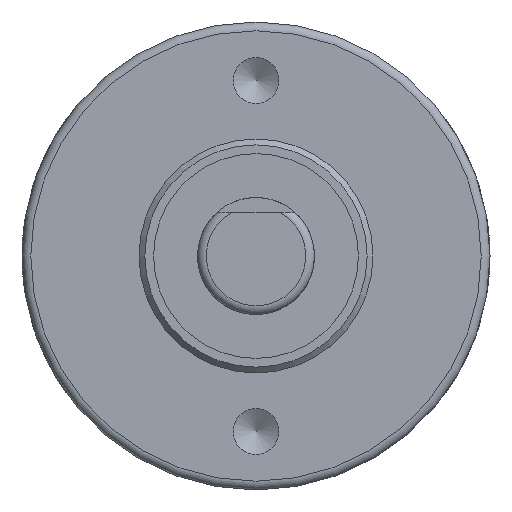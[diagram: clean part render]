
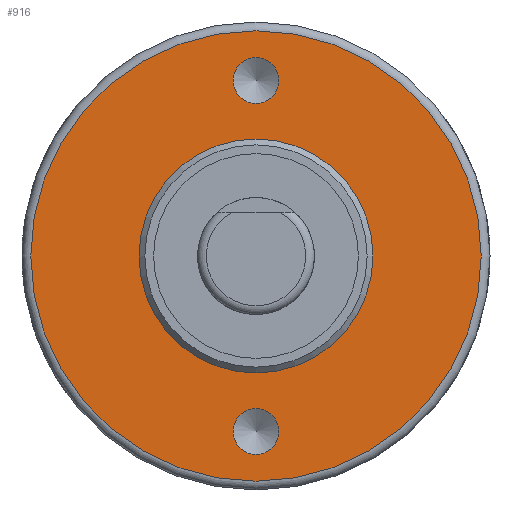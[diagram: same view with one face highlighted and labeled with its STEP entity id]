
A CAD part, front view. The second image highlights one B-rep face of the part: STEP entity #916.
In plain terms, the highlighted planar face has unit normal (0, -1, 0).
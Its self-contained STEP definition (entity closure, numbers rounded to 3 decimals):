
#171=CARTESIAN_POINT('',(0.784,0.0,6.));
#172=VERTEX_POINT('',#171);
#173=CARTESIAN_POINT('',(0.0,0.0,6.));
#174=DIRECTION('',(0.0,1.0,0.0));
#175=DIRECTION('',(1.0,0.0,0.0));
#176=AXIS2_PLACEMENT_3D('',#173,#174,#175);
#177=CIRCLE('',#176,0.784);
#178=EDGE_CURVE('',#172,#172,#177,.T.);
#250=CARTESIAN_POINT('',(0.784,0.0,-6.));
#251=VERTEX_POINT('',#250);
#252=CARTESIAN_POINT('',(0.0,0.0,-6.));
#253=DIRECTION('',(0.0,1.0,0.0));
#254=DIRECTION('',(1.0,0.0,0.0));
#255=AXIS2_PLACEMENT_3D('',#252,#253,#254);
#256=CIRCLE('',#255,0.784);
#257=EDGE_CURVE('',#251,#251,#256,.T.);
#521=CARTESIAN_POINT('',(4.0,0.0,0.));
#522=VERTEX_POINT('',#521);
#523=CARTESIAN_POINT('',(0.0,0.0,0.0));
#524=DIRECTION('',(0.0,1.0,0.0));
#525=DIRECTION('',(-1.0,0.0,0.0));
#526=AXIS2_PLACEMENT_3D('',#523,#524,#525);
#527=CIRCLE('',#526,4.0);
#528=EDGE_CURVE('',#522,#522,#527,.T.);
#780=CARTESIAN_POINT('',(-7.7,0.0,0.));
#781=VERTEX_POINT('',#780);
#782=CARTESIAN_POINT('',(0.0,0.0,0.0));
#783=DIRECTION('',(0.0,1.0,0.0));
#784=DIRECTION('',(1.0,0.0,0.0));
#785=AXIS2_PLACEMENT_3D('',#782,#783,#784);
#786=CIRCLE('',#785,7.7);
#787=EDGE_CURVE('',#781,#781,#786,.T.);
#899=CARTESIAN_POINT('',(0.0,0.0,0.0));
#900=DIRECTION('',(0.0,-1.0,0.0));
#901=DIRECTION('',(0.0,0.0,-1.0));
#902=AXIS2_PLACEMENT_3D('',#899,#900,#901);
#903=PLANE('',#902);
#904=ORIENTED_EDGE('',*,*,#787,.F.);
#905=EDGE_LOOP('',(#904));
#906=FACE_OUTER_BOUND('',#905,.T.);
#907=ORIENTED_EDGE('',*,*,#178,.T.);
#908=EDGE_LOOP('',(#907));
#909=FACE_BOUND('',#908,.T.);
#910=ORIENTED_EDGE('',*,*,#257,.T.);
#911=EDGE_LOOP('',(#910));
#912=FACE_BOUND('',#911,.T.);
#913=ORIENTED_EDGE('',*,*,#528,.T.);
#914=EDGE_LOOP('',(#913));
#915=FACE_BOUND('',#914,.T.);
#916=ADVANCED_FACE('',(#906,#909,#912,#915),#903,.T.);
